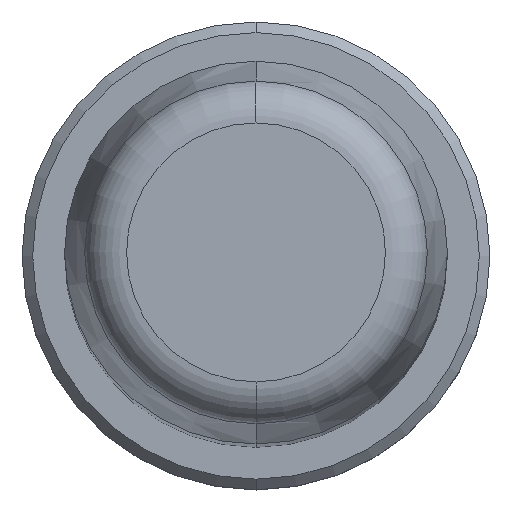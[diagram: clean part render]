
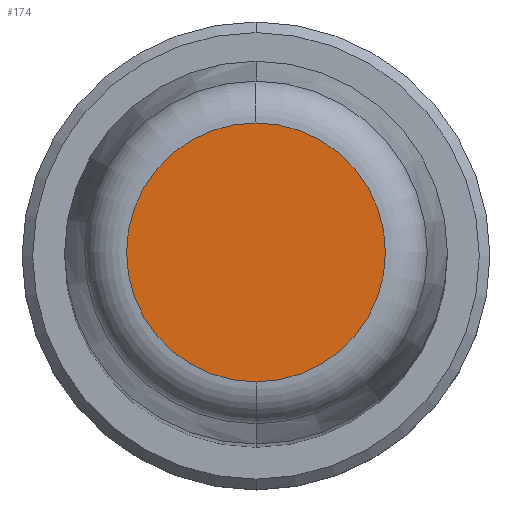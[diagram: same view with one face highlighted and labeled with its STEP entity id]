
A CAD part, top view. The second image highlights one B-rep face of the part: STEP entity #174.
In plain terms, the highlighted planar face has unit normal (0, 0, 1).
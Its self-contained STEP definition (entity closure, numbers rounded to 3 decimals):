
#1=CARTESIAN_POINT('',(0.,0.,100.));
#2=DIRECTION('',(0.,0.,-1.));
#3=DIRECTION('',(0.,-1.,0.));
#4=AXIS2_PLACEMENT_3D('',#1,#2,#3);
#6=CARTESIAN_POINT('',(0.,0.,100.));
#7=DIRECTION('',(0.,0.,-1.));
#8=DIRECTION('',(0.,1.,0.));
#9=AXIS2_PLACEMENT_3D('',#6,#7,#8);
#159=CARTESIAN_POINT('',(0.,-6.088,100.));
#160=CARTESIAN_POINT('',(0.,6.088,100.));
#161=VERTEX_POINT('',#159);
#162=VERTEX_POINT('',#160);
#163=CARTESIAN_POINT('',(0.,0.,100.));
#164=DIRECTION('',(0.,0.,1.));
#165=DIRECTION('',(0.,-1.,0.));
#166=AXIS2_PLACEMENT_3D('',#163,#164,#165);
#167=PLANE('',#166);
#169=ORIENTED_EDGE('',*,*,#168,.T.);
#171=ORIENTED_EDGE('',*,*,#170,.T.);
#172=EDGE_LOOP('',(#169,#171));
#173=FACE_OUTER_BOUND('',#172,.F.);
#174=ADVANCED_FACE('',(#173),#167,.T.);
#5=CIRCLE('',#4,6.088);
#10=CIRCLE('',#9,6.088);
#168=EDGE_CURVE('',#161,#162,#5,.T.);
#170=EDGE_CURVE('',#162,#161,#10,.T.);
